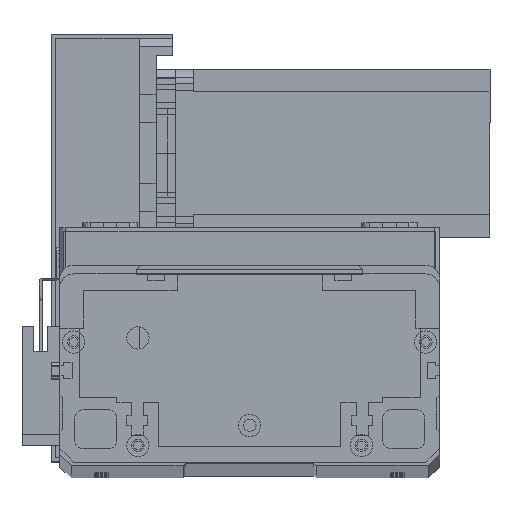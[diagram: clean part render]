
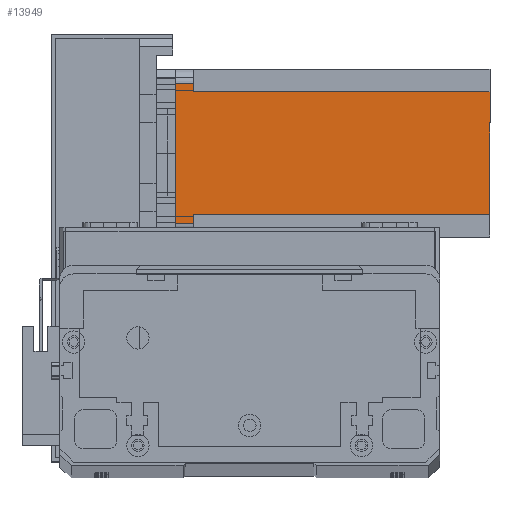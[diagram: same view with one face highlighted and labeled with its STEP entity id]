
A CAD part, top view. The second image highlights one B-rep face of the part: STEP entity #13949.
In plain terms, the highlighted planar face has unit normal (0, 0, 1) as drawn and (0, -1, 0) by its records, which use the part's own axes.
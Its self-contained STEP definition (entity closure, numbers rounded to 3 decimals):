
#1053 = CARTESIAN_POINT ( 'NONE',  ( 52., 0., -6.5 ) ) ;
#1078 = DIRECTION ( 'NONE',  ( 1., 0., 0. ) ) ;
#1836 = ORIENTED_EDGE ( 'NONE', *, *, #12888, .T. ) ;
#3616 = VECTOR ( 'NONE', #12061, 1000. ) ;
#4007 = LINE ( 'NONE', #21134, #15317 ) ;
#4284 = VECTOR ( 'NONE', #16105, 1000. ) ;
#4578 = EDGE_CURVE ( 'NONE', #8069, #17827, #9330, .T. ) ;
#5114 = LINE ( 'NONE', #29383, #10046 ) ;
#5724 = VECTOR ( 'NONE', #1078, 1000. ) ;
#6217 = CARTESIAN_POINT ( 'NONE',  ( 8., 0., -6.5 ) ) ;
#7923 = ORIENTED_EDGE ( 'NONE', *, *, #4578, .F. ) ;
#8069 = VERTEX_POINT ( 'NONE', #23792 ) ;
#8809 = CARTESIAN_POINT ( 'NONE',  ( 52., 0., -112.5 ) ) ;
#8921 = CARTESIAN_POINT ( 'NONE',  ( 55., 0., -6.5 ) ) ;
#9330 = LINE ( 'NONE', #11336, #21978 ) ;
#9386 = ORIENTED_EDGE ( 'NONE', *, *, #15916, .F. ) ;
#10046 = VECTOR ( 'NONE', #29435, 1000. ) ;
#10059 = CARTESIAN_POINT ( 'NONE',  ( 52., 0., -6.5 ) ) ;
#11254 = EDGE_CURVE ( 'NONE', #11871, #14554, #17748, .T. ) ;
#11336 = CARTESIAN_POINT ( 'NONE',  ( 0., 0., 0. ) ) ;
#11402 = ORIENTED_EDGE ( 'NONE', *, *, #14282, .F. ) ;
#11871 = VERTEX_POINT ( 'NONE', #10059 ) ;
#12061 = DIRECTION ( 'NONE',  ( 0., 0., 1. ) ) ;
#12261 = CARTESIAN_POINT ( 'NONE',  ( 8., 0., -112.5 ) ) ;
#12283 = EDGE_CURVE ( 'NONE', #14554, #17827, #16207, .T. ) ;
#12388 = VECTOR ( 'NONE', #19135, 1000. ) ;
#12483 = VERTEX_POINT ( 'NONE', #24373 ) ;
#12591 = DIRECTION ( 'NONE',  ( 1., 0., 0. ) ) ;
#12888 = EDGE_CURVE ( 'NONE', #8069, #17361, #19527, .T. ) ;
#13949 = ADVANCED_FACE ( 'NONE', ( #28216 ), #30421, .T. ) ;
#14282 = EDGE_CURVE ( 'NONE', #28300, #17361, #4007, .T. ) ;
#14506 = EDGE_CURVE ( 'NONE', #12483, #28300, #28921, .T. ) ;
#14554 = VERTEX_POINT ( 'NONE', #8921 ) ;
#14921 = EDGE_CURVE ( 'NONE', #12483, #21230, #5114, .T. ) ;
#15317 = VECTOR ( 'NONE', #20297, 1000. ) ;
#15611 = CARTESIAN_POINT ( 'NONE',  ( 52., 0., -112.5 ) ) ;
#15916 = EDGE_CURVE ( 'NONE', #11871, #21230, #29542, .T. ) ;
#16105 = DIRECTION ( 'NONE',  ( 0., 0., -1. ) ) ;
#16207 = LINE ( 'NONE', #27640, #21736 ) ;
#16651 = CARTESIAN_POINT ( 'NONE',  ( 55., 0., 0. ) ) ;
#17361 = VERTEX_POINT ( 'NONE', #29187 ) ;
#17748 = LINE ( 'NONE', #1053, #5724 ) ;
#17827 = VERTEX_POINT ( 'NONE', #16651 ) ;
#18869 = CARTESIAN_POINT ( 'NONE',  ( 5., 0., -112.5 ) ) ;
#19135 = DIRECTION ( 'NONE',  ( 0., 0., -1. ) ) ;
#19527 = LINE ( 'NONE', #18869, #12388 ) ;
#20297 = DIRECTION ( 'NONE',  ( -1., 0., 0. ) ) ;
#20698 = ORIENTED_EDGE ( 'NONE', *, *, #14506, .F. ) ;
#20998 = ORIENTED_EDGE ( 'NONE', *, *, #14921, .T. ) ;
#21134 = CARTESIAN_POINT ( 'NONE',  ( 8., 0., -6.5 ) ) ;
#21230 = VERTEX_POINT ( 'NONE', #8809 ) ;
#21736 = VECTOR ( 'NONE', #27611, 1000. ) ;
#21978 = VECTOR ( 'NONE', #12591, 1000. ) ;
#22402 = EDGE_LOOP ( 'NONE', ( #26240, #25056, #7923, #1836, #11402, #20698, #20998, #9386 ) ) ;
#23792 = CARTESIAN_POINT ( 'NONE',  ( 5., 0., 0. ) ) ;
#24373 = CARTESIAN_POINT ( 'NONE',  ( 8., 0., -112.5 ) ) ;
#25056 = ORIENTED_EDGE ( 'NONE', *, *, #12283, .T. ) ;
#26240 = ORIENTED_EDGE ( 'NONE', *, *, #11254, .T. ) ;
#27611 = DIRECTION ( 'NONE',  ( 0., 0., 1. ) ) ;
#27640 = CARTESIAN_POINT ( 'NONE',  ( 55., 0., -112.5 ) ) ;
#28084 = AXIS2_PLACEMENT_3D ( 'NONE', #30390, #30251, #30242 ) ;
#28216 = FACE_OUTER_BOUND ( 'NONE', #22402, .T. ) ;
#28300 = VERTEX_POINT ( 'NONE', #6217 ) ;
#28921 = LINE ( 'NONE', #12261, #3616 ) ;
#29187 = CARTESIAN_POINT ( 'NONE',  ( 5., 0., -6.5 ) ) ;
#29383 = CARTESIAN_POINT ( 'NONE',  ( 0., 0., -112.5 ) ) ;
#29435 = DIRECTION ( 'NONE',  ( 1., 0., 0. ) ) ;
#29542 = LINE ( 'NONE', #15611, #4284 ) ;
#30242 = DIRECTION ( 'NONE',  ( 0., 0., -1. ) ) ;
#30251 = DIRECTION ( 'NONE',  ( 0., -1., 0. ) ) ;
#30390 = CARTESIAN_POINT ( 'NONE',  ( 0., 0., -112.5 ) ) ;
#30421 = PLANE ( 'NONE',  #28084 ) ;
